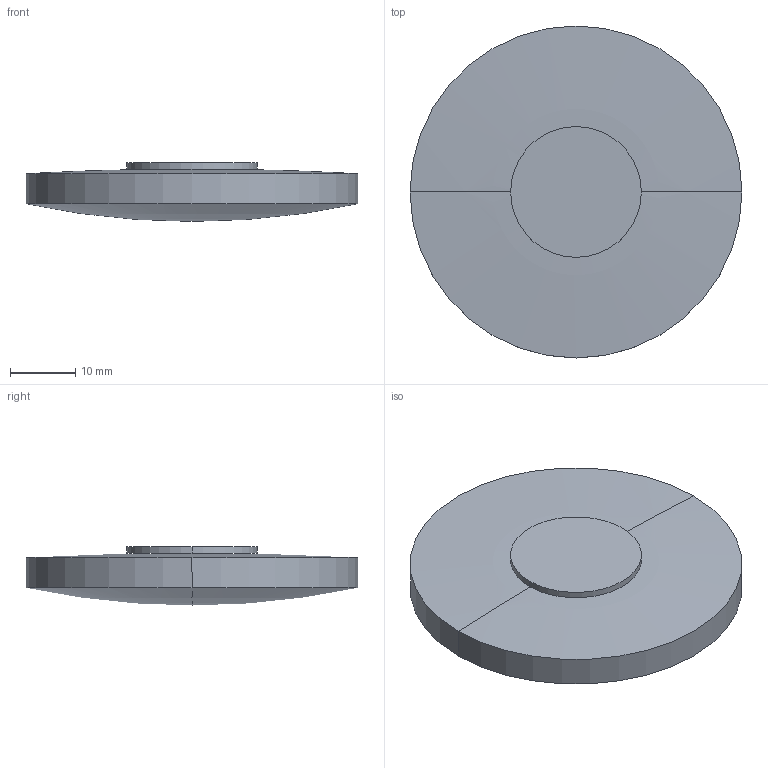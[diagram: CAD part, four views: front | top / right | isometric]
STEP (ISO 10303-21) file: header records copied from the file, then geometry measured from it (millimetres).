
FILE_DESCRIPTION(('STEP AP214'),'1');
FILE_NAME('LLF-51240.STEP','2020-03-09T17:41:30',(' '),(' '),'Spatial InterOp 3D',' ',' ');
FILE_SCHEMA(('AUTOMOTIVE_DESIGN { 1 0 10303 214 1 1 1 1 }'));
Length unit declared in the file: millimetre
Products named in the file (1): 1
Bounding box: 50.8 x 50.8 x 9 mm (x, y, z)
Volume: 13115.4 mm3; surface area: 5506.6 mm2
Topology: 2 solids, 2 shells, 10 faces, 20 edges, 10 vertices
Faces by surface type: sphere 4, cylinder 4, plane 2
Entity records: 255 total; most frequent: DIRECTION 52, CARTESIAN_POINT 38, ORIENTED_EDGE 32, AXIS2_PLACEMENT_3D 24, EDGE_CURVE 16, CIRCLE 12, ADVANCED_FACE 10, FACE_OUTER_BOUND 10
